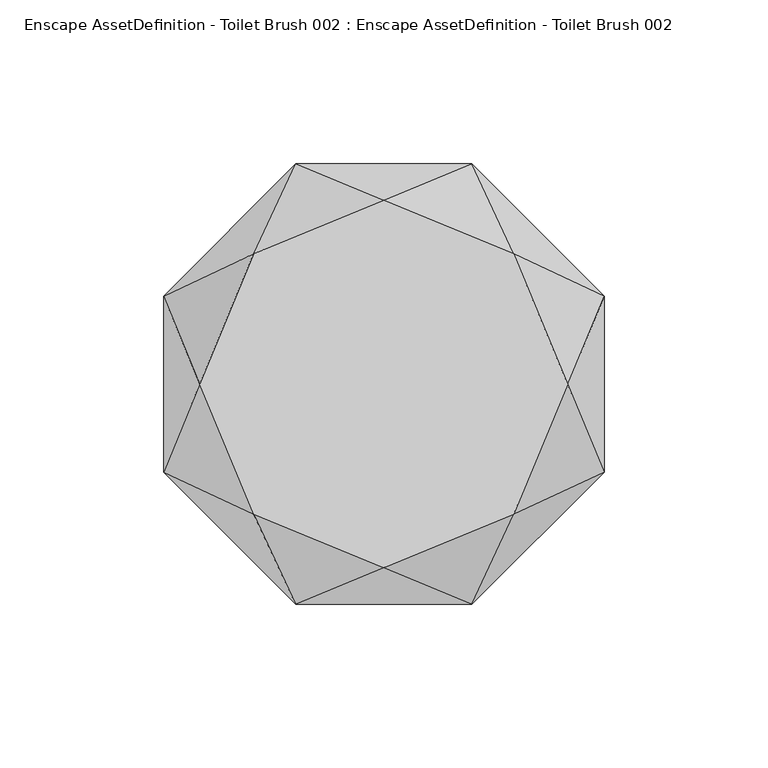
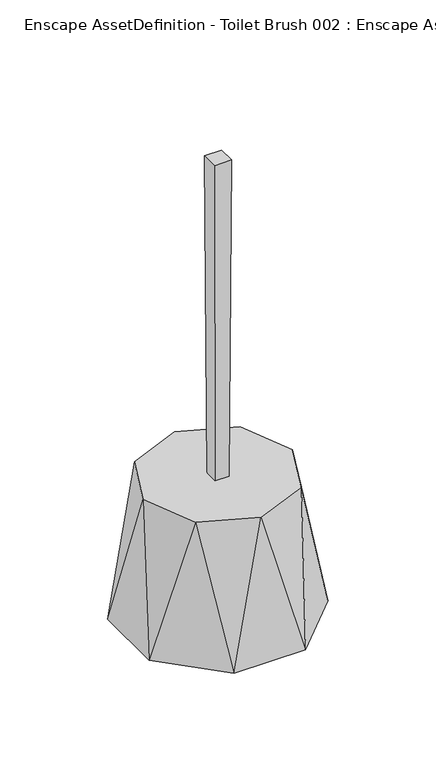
"""IFC4 building model written with IfcOpenShell, lengths in millimetres: geographic element geometry, Enscape AssetDefinition - Toilet Brush 002 : Enscape AssetDefinition - Toilet Brush 002."""

from ifc_helpers import new_model, si_unit, origin, place, context, project, spatial, triangles, source, transform, mapped, element, save


def enscape_assetdefinition_toilet_brush_002_enscape_6c5018a6(model_context):
    return source(origin(), model_context, "Body", "Tessellation", [
        triangles([(0.0, -56.1589994, 107.6430026), (-26.8920018, -67.2299988, 0.0), (5.2269997, -5.2269997, 107.6430026), (39.7109981, -39.7109981, 107.6430026), (-39.7109981, -39.7109981, 107.6430026), (5.2269997, 5.2269997, 107.6430026), (6.4869996, -6.4559996, 358.9490204), (-6.4430002, -6.4559996, 358.9490204), (-5.2269997, -5.2269997, 107.6430026), (-6.4430002, 6.4740002, 358.9490204), (6.4869996, 6.4740002, 358.9490204), (-39.7109981, 39.7109981, 107.6430026), (-56.1589994, 0.0, 107.6430026), (-5.2269997, 5.2269997, 107.6430026), (0.0, 56.1589994, 107.6430026), (26.8920018, 67.2299988, 0.0), (39.7109981, 39.7109981, 107.6430026), (-26.8920018, 67.2299988, 0.0), (-67.2299988, 26.8920018, 0.0), (-67.2299988, -26.8920018, 0.0), (67.2299988, -26.8920018, 0.0), (67.2299988, 26.8920018, 0.0), (56.1589994, 0.0, 107.6430026), (26.8920018, -67.2299988, 0.0)], [[21, 4, 24], [6, 4, 23], [23, 4, 21], [6, 23, 17], [22, 21, 24], [21, 22, 23], [22, 17, 23], [16, 17, 22], [22, 24, 20], [19, 20, 13], [20, 18, 22], [18, 16, 22], [20, 19, 18], [6, 17, 15], [16, 18, 15], [15, 17, 16], [18, 12, 15], [19, 12, 18], [13, 12, 19], [6, 14, 10], [14, 15, 12], [14, 6, 15], [14, 12, 13], [14, 8, 10], [11, 10, 8], [6, 10, 11], [7, 11, 8], [14, 9, 8], [9, 7, 8], [9, 14, 13], [9, 3, 7], [3, 11, 7], [3, 6, 11], [6, 3, 4], [9, 13, 5], [3, 9, 5], [20, 5, 13], [24, 2, 20], [2, 5, 20], [3, 1, 4], [3, 5, 1], [2, 24, 1], [24, 4, 1], [1, 5, 2]]),
    ])


if __name__ == "__main__":
    model = new_model("IFC4")
    model_context = context("Model", 3, world=origin())
    ifc_project = project(units=[si_unit("LENGTHUNIT", "METRE", prefix="MILLI")], contexts=[model_context])
    site = spatial("IfcSite", under=ifc_project)
    building = spatial("IfcBuilding", under=site)
    placement = place(None, origin())
    enscape_assetdefinition_toilet_brush_002_enscape_shape = enscape_assetdefinition_toilet_brush_002_enscape_6c5018a6(model_context)
    element("IfcGeographicElement", 1, ObjectType="Enscape AssetDefinition - Toilet Brush 002 : Enscape AssetDefinition - Toilet Brush 002", at=placement, inside=building, context=model_context, shape_type="MappedRepresentation", body=[
        mapped(enscape_assetdefinition_toilet_brush_002_enscape_shape, transform((0.0, 0.0, 0.0), x_axis=(1.0, 0.0, 0.0), y_axis=(0.0, 1.0, 0.0), z_axis=(0.0, 0.0, 1.0))),
    ])
    save(model, "model.ifc")
